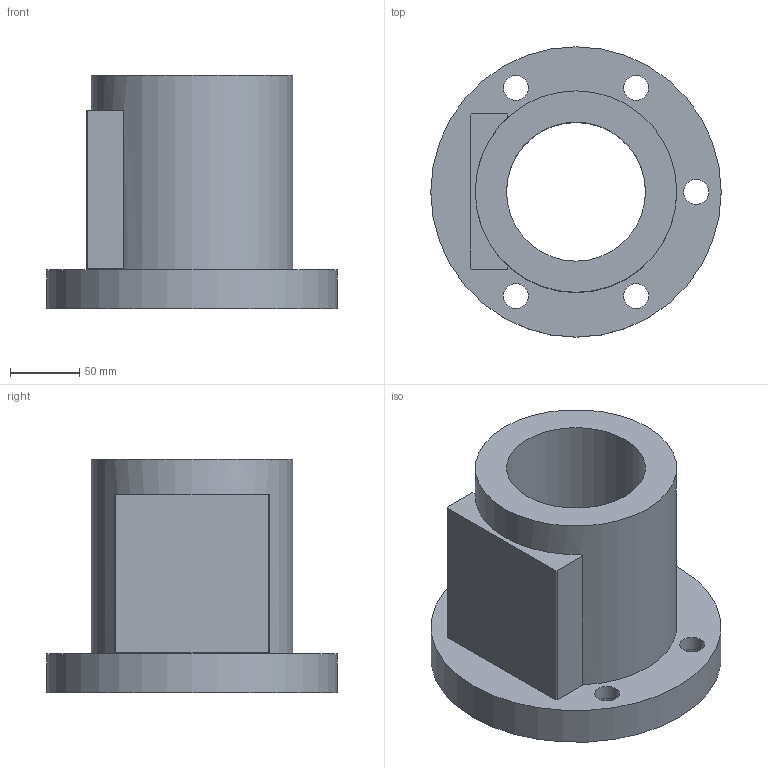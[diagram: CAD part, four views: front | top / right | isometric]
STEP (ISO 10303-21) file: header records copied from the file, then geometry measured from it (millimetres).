
FILE_DESCRIPTION(/* description */ (''),/* implementation_level */ '2;1');
FILE_NAME(/* name */ '100-12B3',/* time_stamp */ '2006-07-31T13:02:51+08:00',/* author */ (''),/* organization */ (''),/* preprocessor_version */ 'ST-DEVELOPER v9',/* originating_system */ 'UGS - NX 4.0',/* authorisation */ '');
FILE_SCHEMA (('CONFIG_CONTROL_DESIGN'));
Length unit declared in the file: millimetre
Products named in the file (1): 100-12B3
Bounding box: 209 x 209 x 168 mm (x, y, z)
Volume: 2039692.4 mm3; surface area: 203663.8 mm2
Topology: 1 solids, 1 shells, 30 faces, 67 edges, 46 vertices
Faces by surface type: plane 17, cylinder 13
Full cylindrical faces by diameter (mm): 18 x5, 26 x5, 100 x1, 145 x1, 209 x1
Entity records: 860 total; most frequent: DIRECTION 140, CARTESIAN_POINT 123, ORIENTED_EDGE 100, EDGE_LOOP 62, AXIS2_PLACEMENT_3D 59, EDGE_CURVE 50, FACE_BOUND 45, VERTEX_POINT 42
